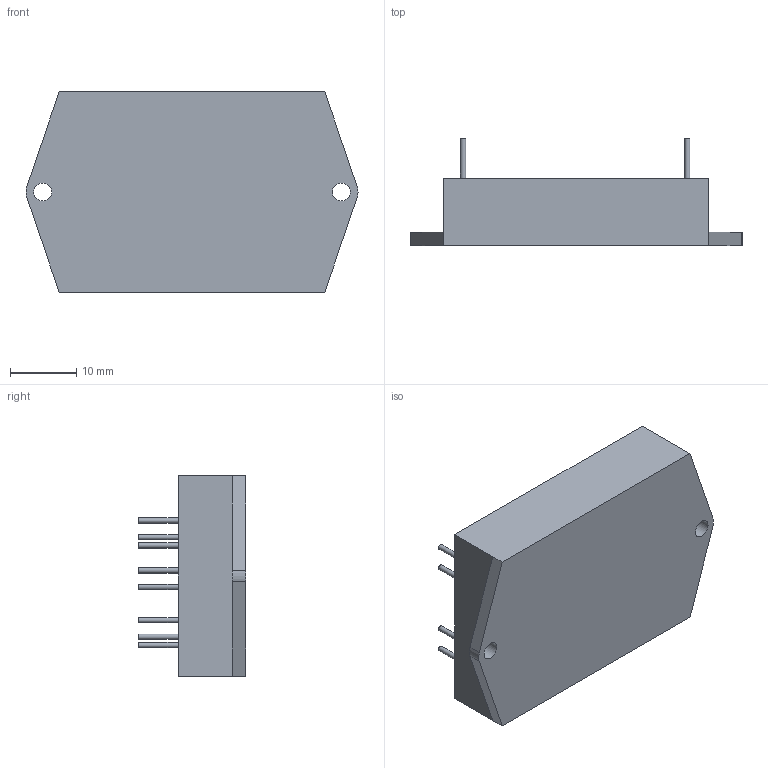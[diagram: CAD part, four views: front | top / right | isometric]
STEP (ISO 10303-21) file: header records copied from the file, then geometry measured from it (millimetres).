
FILE_DESCRIPTION((''),'2;1');
FILE_NAME('\\FILE-SERVER\Konstr\РАБОЧАЯ\Баранов А.Ю\Модули\2016\3Д модели МДМ\004 ТУ\МДМ10-3УВ.stp','2016-02-18T16:33:56',('ABaranov'),(''),'Autodesk Inventor 2013','Autodesk Inventor 2013','');
FILE_SCHEMA(('AUTOMOTIVE_DESIGN { 1 0 10303 214 1 1 1 1 }'));
Length unit declared in the file: millimetre
Products named in the file (1): МДМ10-3УВ
Bounding box: 50 x 16.15 x 30.2 mm (x, y, z)
Volume: 12578.7 mm3; surface area: 4329.7 mm2
Topology: 11 solids, 11 shells, 46 faces, 68 edges, 44 vertices
Faces by surface type: plane 32, cylinder 14
Full cylindrical faces by diameter (mm): 0.8 x10, 2.7 x2
Entity records: 1026 total; most frequent: DIRECTION 178, CARTESIAN_POINT 147, ORIENTED_EDGE 112, AXIS2_PLACEMENT_3D 75, EDGE_LOOP 62, EDGE_CURVE 56, FACE_OUTER_BOUND 46, ADVANCED_FACE 46
